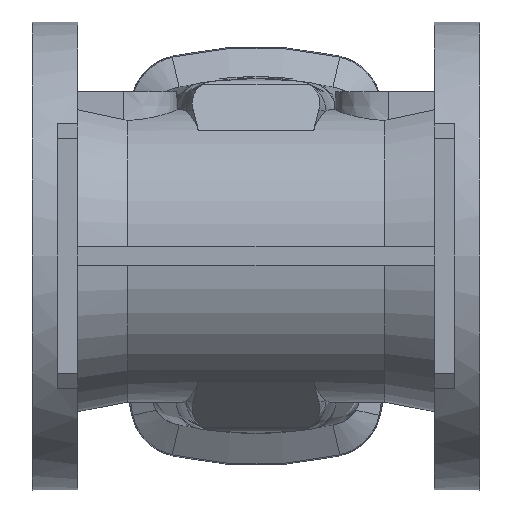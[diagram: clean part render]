
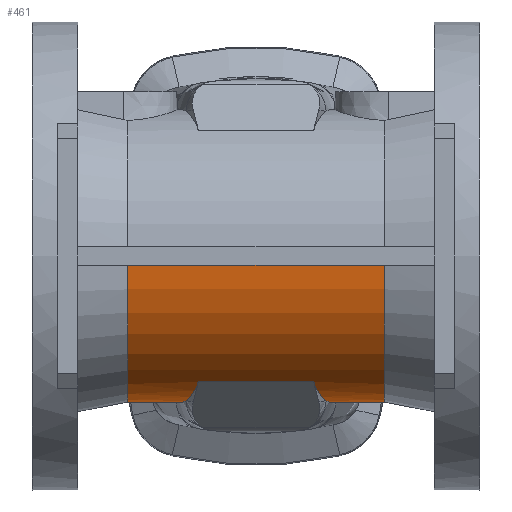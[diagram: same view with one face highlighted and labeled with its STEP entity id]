
A CAD part, front view. The second image highlights one B-rep face of the part: STEP entity #461.
In plain terms, the highlighted cylindrical face has radius 87.2 mm (diameter 174.4 mm), a partial arc.
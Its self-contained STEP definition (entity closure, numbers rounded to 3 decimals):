
#461 = ADVANCED_FACE ( 'NONE', ( #4340 ), #4343, .T. ) ;
#601 = EDGE_CURVE ( 'NONE', #1876, #1894, #4538, .T. ) ;
#664 = EDGE_CURVE ( 'NONE', #1957, #1876, #14924, .T. ) ;
#682 = EDGE_CURVE ( 'NONE', #1955, #1950, #14937, .T. ) ;
#1222 = EDGE_CURVE ( 'NONE', #1987, #1957, #10145, .T. ) ;
#1226 = EDGE_CURVE ( 'NONE', #1994, #1979, #11407, .T. ) ;
#1230 = EDGE_CURVE ( 'NONE', #1994, #1996, #11409, .T. ) ;
#1241 = EDGE_CURVE ( 'NONE', #1950, #1990, #11425, .T. ) ;
#1246 = EDGE_CURVE ( 'NONE', #1894, #1975, #11429, .T. ) ;
#1248 = EDGE_CURVE ( 'NONE', #1992, #1955, #10153, .T. ) ;
#1249 = EDGE_CURVE ( 'NONE', #1990, #1987, #10154, .T. ) ;
#1254 = EDGE_CURVE ( 'NONE', #1996, #1992, #10156, .T. ) ;
#1256 = EDGE_CURVE ( 'NONE', #1975, #1979, #11440, .T. ) ;
#1876 = VERTEX_POINT ( 'NONE', #10909 ) ;
#1894 = VERTEX_POINT ( 'NONE', #10925 ) ;
#1950 = VERTEX_POINT ( 'NONE', #10979 ) ;
#1955 = VERTEX_POINT ( 'NONE', #10984 ) ;
#1957 = VERTEX_POINT ( 'NONE', #10986 ) ;
#1975 = VERTEX_POINT ( 'NONE', #11004 ) ;
#1979 = VERTEX_POINT ( 'NONE', #11008 ) ;
#1987 = VERTEX_POINT ( 'NONE', #11016 ) ;
#1990 = VERTEX_POINT ( 'NONE', #11019 ) ;
#1992 = VERTEX_POINT ( 'NONE', #11021 ) ;
#1994 = VERTEX_POINT ( 'NONE', #11023 ) ;
#1996 = VERTEX_POINT ( 'NONE', #11025 ) ;
#2512 = EDGE_LOOP ( 'NONE', ( #2804, #2805, #2806, #2807, #2808, #2809, #2810, #2811, #2812, #2813, #2814, #2815 ) ) ;
#2804 = ORIENTED_EDGE ( 'NONE', *, *, #1256, .F. ) ;
#2805 = ORIENTED_EDGE ( 'NONE', *, *, #1246, .F. ) ;
#2806 = ORIENTED_EDGE ( 'NONE', *, *, #601, .F. ) ;
#2807 = ORIENTED_EDGE ( 'NONE', *, *, #664, .F. ) ;
#2808 = ORIENTED_EDGE ( 'NONE', *, *, #1222, .F. ) ;
#2809 = ORIENTED_EDGE ( 'NONE', *, *, #1249, .F. ) ;
#2810 = ORIENTED_EDGE ( 'NONE', *, *, #1241, .F. ) ;
#2811 = ORIENTED_EDGE ( 'NONE', *, *, #682, .F. ) ;
#2812 = ORIENTED_EDGE ( 'NONE', *, *, #1248, .F. ) ;
#2813 = ORIENTED_EDGE ( 'NONE', *, *, #1254, .F. ) ;
#2814 = ORIENTED_EDGE ( 'NONE', *, *, #1230, .F. ) ;
#2815 = ORIENTED_EDGE ( 'NONE', *, *, #1226, .T. ) ;
#3286 = AXIS2_PLACEMENT_3D ( 'NONE', #5196, #5195, #5191 ) ;
#4340 = FACE_OUTER_BOUND ( 'NONE', #2512, .T. ) ;
#4343 = CYLINDRICAL_SURFACE ( 'NONE', #3286, 87.2 ) ;
#4538 = LINE ( 'NONE', #5917, #4542 ) ;
#4542 = VECTOR ( 'NONE', #5927, 1000. ) ;
#5191 = DIRECTION ( 'NONE',  ( 0., 0., 1. ) ) ;
#5195 = DIRECTION ( 'NONE',  ( -1., 0., 0. ) ) ;
#5196 = CARTESIAN_POINT ( 'NONE',  ( -1000., 0., 0. ) ) ;
#5917 = CARTESIAN_POINT ( 'NONE',  ( -1000., 87.026, -5.5 ) ) ;
#5927 = DIRECTION ( 'NONE',  ( -1., 0., 0. ) ) ;
#6113 = AXIS2_PLACEMENT_3D ( 'NONE', #10637, #10638, #10639 ) ;
#6117 = AXIS2_PLACEMENT_3D ( 'NONE', #10701, #10702, #10703 ) ;
#6388 = CARTESIAN_POINT ( 'NONE',  ( -56.864, 57.324, -77.533 ) ) ;
#6389 = CARTESIAN_POINT ( 'NONE',  ( -62.874, 84.431, -46.57 ) ) ;
#6393 = CARTESIAN_POINT ( 'NONE',  ( -47.915, 16.957, -85.535 ) ) ;
#6394 = CARTESIAN_POINT ( 'NONE',  ( -63.449, 87.026, -5.5 ) ) ;
#6464 = CARTESIAN_POINT ( 'NONE',  ( 39.053, -23.02, -84.922 ) ) ;
#6465 = CARTESIAN_POINT ( 'NONE',  ( 36.592, -34.12, -81.102 ) ) ;
#6486 = CARTESIAN_POINT ( 'NONE',  ( 41.633, -11.381, -86.454 ) ) ;
#6488 = CARTESIAN_POINT ( 'NONE',  ( 34.349, -44.236, -75.147 ) ) ;
#10145 =( BOUNDED_CURVE ( )  B_SPLINE_CURVE ( 3, ( #10620, #10625, #10626, #10627 ),
 .UNSPECIFIED., .F., .F. ) 
 B_SPLINE_CURVE_WITH_KNOTS ( ( 4, 4 ),
 ( 1.44, 1.767 ),
 .UNSPECIFIED. ) 
 CURVE ( )  GEOMETRIC_REPRESENTATION_ITEM ( )  RATIONAL_B_SPLINE_CURVE ( ( 1., 0.991, 0.991, 1. ) ) 
 REPRESENTATION_ITEM ( '' )  );
#10153 =( BOUNDED_CURVE ( )  B_SPLINE_CURVE ( 3, ( #10699, #10698, #10707, #10708 ),
 .UNSPECIFIED., .F., .F. ) 
 B_SPLINE_CURVE_WITH_KNOTS ( ( 4, 4 ),
 ( 4.517, 4.843 ),
 .UNSPECIFIED. ) 
 CURVE ( )  GEOMETRIC_REPRESENTATION_ITEM ( )  RATIONAL_B_SPLINE_CURVE ( ( 1., 0.991, 0.991, 1. ) ) 
 REPRESENTATION_ITEM ( '' )  );
#10154 =( BOUNDED_CURVE ( )  B_SPLINE_CURVE ( 3, ( #10704, #10706, #10710, #10711 ),
 .UNSPECIFIED., .F., .F. ) 
 B_SPLINE_CURVE_WITH_KNOTS ( ( 4, 4 ),
 ( 1.039, 1.44 ),
 .UNSPECIFIED. ) 
 CURVE ( )  GEOMETRIC_REPRESENTATION_ITEM ( )  RATIONAL_B_SPLINE_CURVE ( ( 1., 0.987, 0.987, 1. ) ) 
 REPRESENTATION_ITEM ( '' )  );
#10156 =( BOUNDED_CURVE ( )  B_SPLINE_CURVE ( 3, ( #10719, #10720, #10726, #10727 ),
 .UNSPECIFIED., .F., .F. ) 
 B_SPLINE_CURVE_WITH_KNOTS ( ( 4, 4 ),
 ( 3.205, 4.517 ),
 .UNSPECIFIED. ) 
 CURVE ( )  GEOMETRIC_REPRESENTATION_ITEM ( )  RATIONAL_B_SPLINE_CURVE ( ( 1., 0.862, 0.862, 1. ) ) 
 REPRESENTATION_ITEM ( '' )  );
#10620 = CARTESIAN_POINT ( 'NONE',  ( -41.633, -11.381, -86.454 ) ) ;
#10625 = CARTESIAN_POINT ( 'NONE',  ( -43.729, -1.927, -87.699 ) ) ;
#10626 = CARTESIAN_POINT ( 'NONE',  ( -45.842, 7.604, -87.39 ) ) ;
#10627 = CARTESIAN_POINT ( 'NONE',  ( -47.915, 16.957, -85.535 ) ) ;
#10637 = CARTESIAN_POINT ( 'NONE',  ( 76.662, 0., 0. ) ) ;
#10638 = DIRECTION ( 'NONE',  ( -1., 0., 0. ) ) ;
#10639 = DIRECTION ( 'NONE',  ( 0., 0., 1. ) ) ;
#10648 = CARTESIAN_POINT ( 'NONE',  ( -1000., 87.026, -5.5 ) ) ;
#10649 = DIRECTION ( 'NONE',  ( -1., 0., 0. ) ) ;
#10684 = CARTESIAN_POINT ( 'NONE',  ( -1000., -44.236, -75.147 ) ) ;
#10685 = DIRECTION ( 'NONE',  ( -1., 0., 0. ) ) ;
#10698 = CARTESIAN_POINT ( 'NONE',  ( 45.842, 7.604, -87.39 ) ) ;
#10699 = CARTESIAN_POINT ( 'NONE',  ( 47.915, 16.957, -85.535 ) ) ;
#10701 = CARTESIAN_POINT ( 'NONE',  ( -76.662, 0., 0. ) ) ;
#10702 = DIRECTION ( 'NONE',  ( -1., 0., 0. ) ) ;
#10703 = DIRECTION ( 'NONE',  ( 0., 0., 1. ) ) ;
#10704 = CARTESIAN_POINT ( 'NONE',  ( -34.349, -44.236, -75.147 ) ) ;
#10706 = CARTESIAN_POINT ( 'NONE',  ( -36.592, -34.12, -81.102 ) ) ;
#10707 = CARTESIAN_POINT ( 'NONE',  ( 43.729, -1.927, -87.699 ) ) ;
#10708 = CARTESIAN_POINT ( 'NONE',  ( 41.633, -11.381, -86.454 ) ) ;
#10710 = CARTESIAN_POINT ( 'NONE',  ( -39.053, -23.02, -84.922 ) ) ;
#10711 = CARTESIAN_POINT ( 'NONE',  ( -41.633, -11.381, -86.454 ) ) ;
#10719 = CARTESIAN_POINT ( 'NONE',  ( 63.449, 87.026, -5.5 ) ) ;
#10720 = CARTESIAN_POINT ( 'NONE',  ( 62.874, 84.431, -46.57 ) ) ;
#10726 = CARTESIAN_POINT ( 'NONE',  ( 56.864, 57.324, -77.533 ) ) ;
#10727 = CARTESIAN_POINT ( 'NONE',  ( 47.915, 16.957, -85.535 ) ) ;
#10729 = CARTESIAN_POINT ( 'NONE',  ( -1000., -87.026, -5.5 ) ) ;
#10730 = DIRECTION ( 'NONE',  ( 1., 0., 0. ) ) ;
#10909 = CARTESIAN_POINT ( 'NONE',  ( -63.449, 87.026, -5.5 ) ) ;
#10925 = CARTESIAN_POINT ( 'NONE',  ( -76.662, 87.026, -5.5 ) ) ;
#10979 = CARTESIAN_POINT ( 'NONE',  ( 34.349, -44.236, -75.147 ) ) ;
#10984 = CARTESIAN_POINT ( 'NONE',  ( 41.633, -11.381, -86.454 ) ) ;
#10986 = CARTESIAN_POINT ( 'NONE',  ( -47.915, 16.957, -85.535 ) ) ;
#11004 = CARTESIAN_POINT ( 'NONE',  ( -76.662, -87.026, -5.5 ) ) ;
#11008 = CARTESIAN_POINT ( 'NONE',  ( 76.662, -87.026, -5.5 ) ) ;
#11016 = CARTESIAN_POINT ( 'NONE',  ( -41.633, -11.381, -86.454 ) ) ;
#11019 = CARTESIAN_POINT ( 'NONE',  ( -34.349, -44.236, -75.147 ) ) ;
#11021 = CARTESIAN_POINT ( 'NONE',  ( 47.915, 16.957, -85.535 ) ) ;
#11023 = CARTESIAN_POINT ( 'NONE',  ( 76.662, 87.026, -5.5 ) ) ;
#11025 = CARTESIAN_POINT ( 'NONE',  ( 63.449, 87.026, -5.5 ) ) ;
#11407 = CIRCLE ( 'NONE', #6113, 87.2 ) ;
#11409 = LINE ( 'NONE', #10648, #11411 ) ;
#11411 = VECTOR ( 'NONE', #10649, 1000. ) ;
#11425 = LINE ( 'NONE', #10684, #11428 ) ;
#11428 = VECTOR ( 'NONE', #10685, 1000. ) ;
#11429 = CIRCLE ( 'NONE', #6117, 87.2 ) ;
#11440 = LINE ( 'NONE', #10729, #11443 ) ;
#11443 = VECTOR ( 'NONE', #10730, 1000. ) ;
#14924 =( BOUNDED_CURVE ( )  B_SPLINE_CURVE ( 3, ( #6393, #6388, #6389, #6394 ),
 .UNSPECIFIED., .F., .F. ) 
 B_SPLINE_CURVE_WITH_KNOTS ( ( 4, 4 ),
 ( 1.767, 3.078 ),
 .UNSPECIFIED. ) 
 CURVE ( )  GEOMETRIC_REPRESENTATION_ITEM ( )  RATIONAL_B_SPLINE_CURVE ( ( 1., 0.862, 0.862, 1. ) ) 
 REPRESENTATION_ITEM ( '' )  );
#14937 =( BOUNDED_CURVE ( )  B_SPLINE_CURVE ( 3, ( #6486, #6464, #6465, #6488 ),
 .UNSPECIFIED., .F., .F. ) 
 B_SPLINE_CURVE_WITH_KNOTS ( ( 4, 4 ),
 ( 4.843, 5.244 ),
 .UNSPECIFIED. ) 
 CURVE ( )  GEOMETRIC_REPRESENTATION_ITEM ( )  RATIONAL_B_SPLINE_CURVE ( ( 1., 0.987, 0.987, 1. ) ) 
 REPRESENTATION_ITEM ( '' )  );
